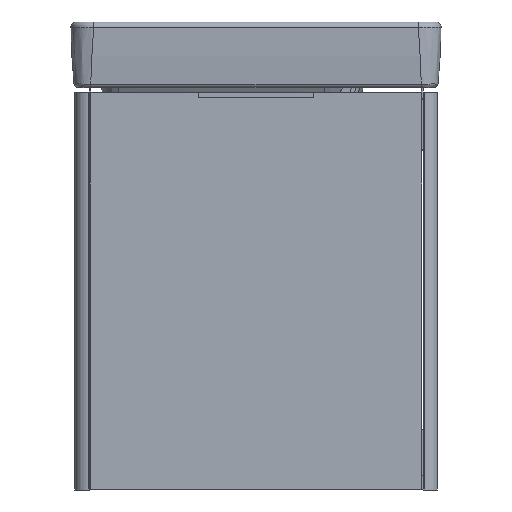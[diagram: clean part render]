
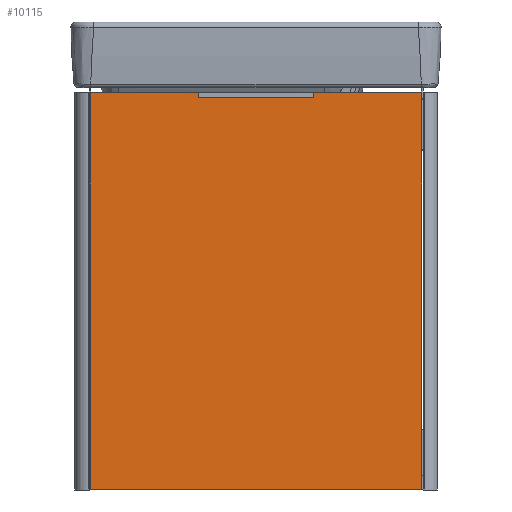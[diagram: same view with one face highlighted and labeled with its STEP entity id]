
A CAD part, front view. The second image highlights one B-rep face of the part: STEP entity #10115.
In plain terms, the highlighted planar face has unit normal (0, -1, 0).
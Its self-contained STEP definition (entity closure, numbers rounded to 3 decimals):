
#2550=FACE_OUTER_BOUND('',#2994,.T.);
#2994=EDGE_LOOP('',(#8006,#8007,#8008,#8009));
#3466=LINE('',#13826,#3922);
#3468=LINE('',#13830,#3924);
#3469=LINE('',#13832,#3925);
#3470=LINE('',#13833,#3926);
#3922=VECTOR('',#11632,10.);
#3924=VECTOR('',#11636,10.);
#3925=VECTOR('',#11637,10.);
#3926=VECTOR('',#11638,10.);
#4377=VERTEX_POINT('',#13823);
#4378=VERTEX_POINT('',#13825);
#4379=VERTEX_POINT('',#13829);
#4380=VERTEX_POINT('',#13831);
#6165=EDGE_CURVE('',#4377,#4378,#3466,.T.);
#6167=EDGE_CURVE('',#4379,#4377,#3468,.T.);
#6168=EDGE_CURVE('',#4379,#4380,#3469,.T.);
#6169=EDGE_CURVE('',#4378,#4380,#3470,.T.);
#8006=ORIENTED_EDGE('',*,*,#6167,.F.);
#8007=ORIENTED_EDGE('',*,*,#6168,.T.);
#8008=ORIENTED_EDGE('',*,*,#6169,.F.);
#8009=ORIENTED_EDGE('',*,*,#6165,.F.);
#10007=PLANE('',#10755);
#10115=ADVANCED_FACE('',(#2550),#10007,.T.);
#10755=AXIS2_PLACEMENT_3D('',#13828,#11634,#11635);
#11632=DIRECTION('',(-1.,0.,0.));
#11634=DIRECTION('center_axis',(0.,-1.,0.));
#11635=DIRECTION('ref_axis',(0.,0.,
-1.));
#11636=DIRECTION('',(0.,0.,-1.));
#11637=DIRECTION('',(-1.,0.,0.));
#11638=DIRECTION('',(0.,0.,1.));
#13823=CARTESIAN_POINT('',(215.,-133.5,1.));
#13825=CARTESIAN_POINT('',(-215.,-133.5,1.));
#13826=CARTESIAN_POINT('',(0.,-133.5,1.));
#13828=CARTESIAN_POINT('Origin',(0.,-133.5,515.));
#13829=CARTESIAN_POINT('',(215.,-133.5,515.));
#13830=CARTESIAN_POINT('',(215.,-133.5,386.5));
#13831=CARTESIAN_POINT('',(-215.,-133.5,515.));
#13832=CARTESIAN_POINT('',(0.,-133.5,515.));
#13833=CARTESIAN_POINT('',(-215.,-133.5,386.5));
